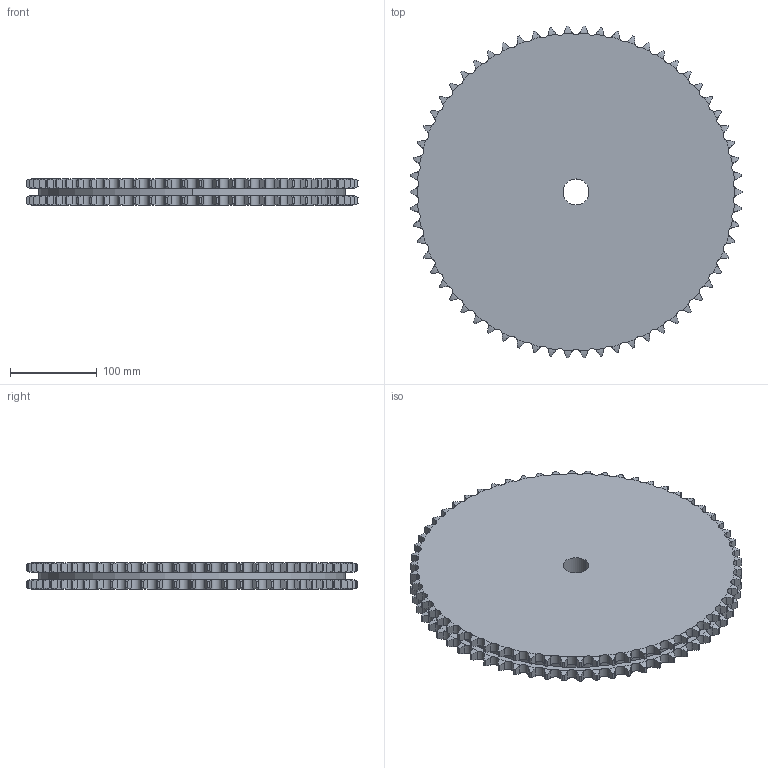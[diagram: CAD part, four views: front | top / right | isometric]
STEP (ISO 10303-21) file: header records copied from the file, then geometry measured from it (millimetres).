
FILE_DESCRIPTION((''),'2;1');
FILE_NAME('500-402-0062_PRT','2021-02-12T',('Brieden'),('Brieden'),'PRO/ENGINEER BY PARAMETRIC TECHNOLOGY CORPORATION, 2010160','PRO/ENGINEER BY PARAMETRIC TECHNOLOGY CORPORATION, 2010160','');
FILE_SCHEMA(('AUTOMOTIVE_DESIGN { 1 0 10303 214 1 1 1 1 }'));
Length unit declared in the file: millimetre
Products named in the file (1): 500-402-0062_PRT
Bounding box: 383.59 x 383.2 x 30.3 mm (x, y, z)
Volume: 3176525 mm3; surface area: 284197.9 mm2
Topology: 1 solids, 1 shells, 752 faces, 2244 edges, 1496 vertices
Faces by surface type: cylinder 500, torus 248, plane 4
Entity records: 37144 total; most frequent: CARTESIAN_POINT 11337, ORIENTED_EDGE 4488, DIRECTION 3508, PRESENTATION_STYLE_ASSIGNMENT 2245, STYLED_ITEM 2245, CURVE_STYLE 2244, EDGE_CURVE 2244, AXIS2_PLACEMENT_3D 1504
